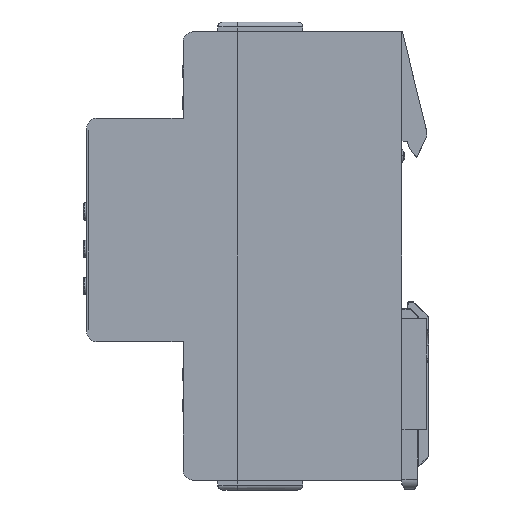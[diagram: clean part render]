
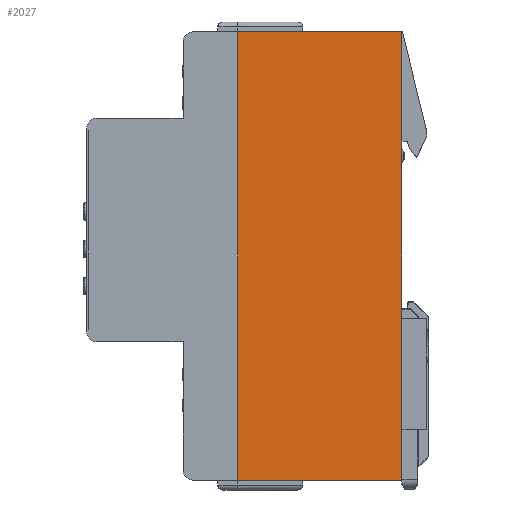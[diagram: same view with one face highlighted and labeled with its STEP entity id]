
A CAD part, left-side view. The second image highlights one B-rep face of the part: STEP entity #2027.
In plain terms, the highlighted planar face has unit normal (-1, 0, 0) as drawn and (0, 1, 0) by its records, which use the part's own axes.
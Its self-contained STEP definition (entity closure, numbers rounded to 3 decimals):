
#2027=ADVANCED_FACE('',(#29864),#29866,.T.);
#29864=FACE_BOUND('',#29865,.T.);
#29865=EDGE_LOOP('',(#54247,#54248,#54249,#54250));
#29866=PLANE('',#29867);
#29867=AXIS2_PLACEMENT_3D('',#29868,#29869,#29870);
#29868=CARTESIAN_POINT('',(45.15,52.4,0.));
#29869=DIRECTION('',(0.,1.,0.));
#29870=DIRECTION('',(-1.,0.,0.));
#54247=ORIENTED_EDGE('',*,*,#73669,.T.);
#54248=ORIENTED_EDGE('',*,*,#73746,.F.);
#54249=ORIENTED_EDGE('',*,*,#73747,.F.);
#54250=ORIENTED_EDGE('',*,*,#73514,.T.);
#73514=EDGE_CURVE('',#82797,#82795,#82798,.T.);
#73669=EDGE_CURVE('',#82795,#83096,#83098,.T.);
#73746=EDGE_CURVE('',#83234,#83096,#83235,.T.);
#73747=EDGE_CURVE('',#82797,#83234,#83236,.T.);
#82795=VERTEX_POINT('',#98239);
#82797=VERTEX_POINT('',#98243);
#82798=LINE('',#98244,#98245);
#83096=VERTEX_POINT('',#98862);
#83098=LINE('',#98866,#98867);
#83234=VERTEX_POINT('',#99158);
#83235=LINE('',#99159,#99160);
#83236=LINE('',#99162,#99163);
#98239=CARTESIAN_POINT('',(-45.15,52.4,0.));
#98243=CARTESIAN_POINT('',(45.15,52.4,0.));
#98244=CARTESIAN_POINT('',(45.15,52.4,0.));
#98245=VECTOR('',#98246,1.);
#98246=DIRECTION('',(-1.,0.,0.));
#98862=CARTESIAN_POINT('',(-45.15,52.4,33.1));
#98866=CARTESIAN_POINT('',(-45.15,52.4,0.));
#98867=VECTOR('',#98868,1.);
#98868=DIRECTION('',(0.,0.,1.));
#99158=CARTESIAN_POINT('',(45.15,52.4,33.1));
#99159=CARTESIAN_POINT('',(45.15,52.4,33.1));
#99160=VECTOR('',#99161,1.);
#99161=DIRECTION('',(-1.,0.,0.));
#99162=CARTESIAN_POINT('',(45.15,52.4,0.));
#99163=VECTOR('',#99164,1.);
#99164=DIRECTION('',(0.,0.,1.));
